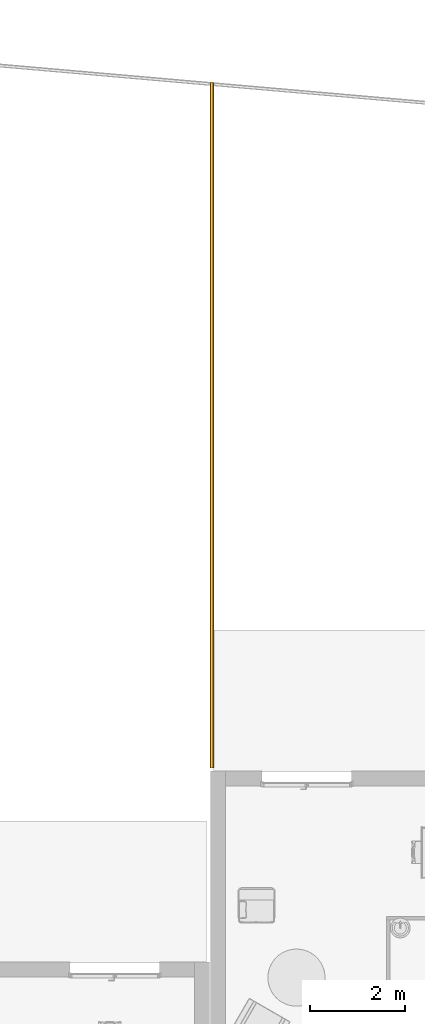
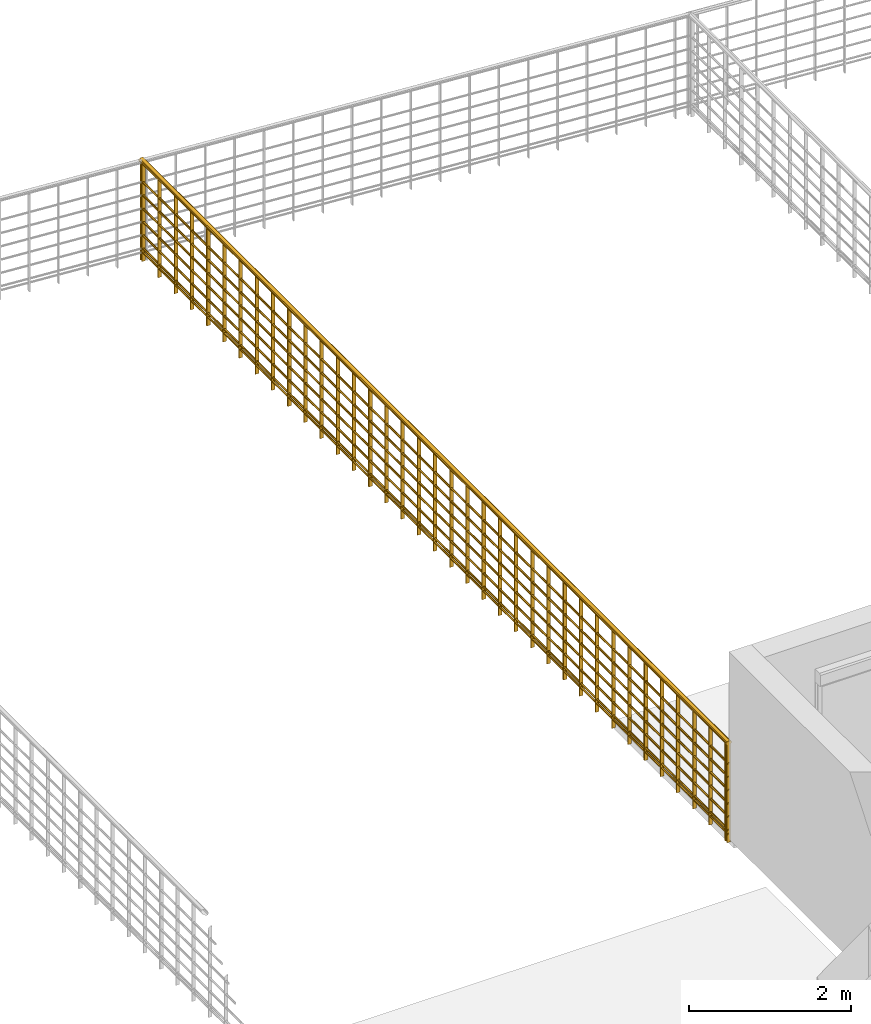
# One storey, part 27 of 30: 1 railing.
"""IFC2X3 building model written with IfcOpenShell, lengths in metres."""

from ifc_helpers import new_model, entity, si_unit, converted_unit, derived_unit, direction, frame, frame_2d, origin, origin_2d_with_axis, place, context, subcontext, project, spatial, polyline, rectangle, circle, outline, extrude, material, material_list, element, save


model = new_model("IFC2X3")

# Units and contexts
model_context = context("Model", 3, precision=1e-05, world=origin(), true_north=direction((6.12303176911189e-17, 1.0)))
body_context = subcontext(model_context, "Body", "Model", "MODEL_VIEW")
ifc_project = project(units=[si_unit("LENGTHUNIT", "METRE"), si_unit("AREAUNIT", "SQUARE_METRE"), si_unit("VOLUMEUNIT", "CUBIC_METRE"), converted_unit("PLANEANGLEUNIT", "DEGREE", entity("IfcRatioMeasure", 0.0174532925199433), si_unit("PLANEANGLEUNIT", "RADIAN"), dimensions=[0, 0, 0, 0, 0, 0, 0]), si_unit("MASSUNIT", "GRAM", prefix="KILO"), derived_unit("MASSDENSITYUNIT", [(si_unit("MASSUNIT", "GRAM", prefix="KILO"), 1), (si_unit("LENGTHUNIT", "METRE"), -3)]), si_unit("TIMEUNIT", "SECOND"), si_unit("FREQUENCYUNIT", "HERTZ"), si_unit("THERMODYNAMICTEMPERATUREUNIT", "DEGREE_CELSIUS"), derived_unit("THERMALTRANSMITTANCEUNIT", [(si_unit("MASSUNIT", "GRAM", prefix="KILO"), 1), (si_unit("THERMODYNAMICTEMPERATUREUNIT", "KELVIN"), -1), (si_unit("TIMEUNIT", "SECOND"), -3)]), derived_unit("VOLUMETRICFLOWRATEUNIT", [(si_unit("LENGTHUNIT", "METRE"), 3), (si_unit("TIMEUNIT", "SECOND"), -1)]), si_unit("ELECTRICCURRENTUNIT", "AMPERE"), si_unit("ELECTRICVOLTAGEUNIT", "VOLT"), si_unit("POWERUNIT", "WATT"), si_unit("FORCEUNIT", "NEWTON", prefix="KILO"), si_unit("ILLUMINANCEUNIT", "LUX"), si_unit("LUMINOUSFLUXUNIT", "LUMEN"), si_unit("LUMINOUSINTENSITYUNIT", "CANDELA"), derived_unit("USERDEFINED", [(si_unit("MASSUNIT", "GRAM", prefix="KILO"), -1), (si_unit("LENGTHUNIT", "METRE"), -2), (si_unit("TIMEUNIT", "SECOND"), 3), (si_unit("LUMINOUSFLUXUNIT", "LUMEN"), 1)]), derived_unit("LINEARVELOCITYUNIT", [(si_unit("LENGTHUNIT", "METRE"), 1), (si_unit("TIMEUNIT", "SECOND"), -1)]), si_unit("PRESSUREUNIT", "PASCAL"), derived_unit("USERDEFINED", [(si_unit("LENGTHUNIT", "METRE"), -2), (si_unit("MASSUNIT", "GRAM", prefix="KILO"), 1), (si_unit("TIMEUNIT", "SECOND"), -2)])], contexts=[model_context])

# Site, building, storey
site_placement = place(None, origin())
site = spatial("IfcSite", under=ifc_project, at=site_placement, Name="Surface", CompositionType="ELEMENT")
building_placement = place(site_placement, origin())
building = spatial("IfcBuilding", under=site, at=building_placement, CompositionType="ELEMENT")
storey_placement = place(building_placement, origin())
storey = spatial("IfcBuildingStorey", under=building, at=storey_placement, Name="Plan des fondations  Maisons 1 et 2", CompositionType="ELEMENT", Elevation=0.0)

# Railing
ifc_material_1 = material(Name="Bois")
ifc_material_2 = material(Name="Finition Peinture Grise")
ifc_material_list = material_list([ifc_material_1, ifc_material_2])
railing_placement = place(building_placement, origin())
element("IfcRailing", 1, at=railing_placement, inside=storey, material=ifc_material_list, Name="Garde-corps:Type Bateau 1,50 m", ObjectType="Garde-corps:Type Bateau 1,50 m", PredefinedType="NOTDEFINED", context=body_context, shape_type="SweptSolid", body=[
    extrude(rectangle(XDim=0.0499999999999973, YDim=0.0139999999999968, at=frame_2d((4.32986979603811e-15, 0.0), x_axis=(1.0, 0.0))), frame((76.3372847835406, 106.978195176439, -0.1), z_axis=(0.0, 0.0, 1.0), x_axis=(-1.0, 0.0, 0.0)), (0.0, 0.0, 1.0), 1.46984653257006),
    extrude(rectangle(XDim=0.0499999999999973, YDim=0.0139999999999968, at=frame_2d((4.32986979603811e-15, 0.0), x_axis=(1.0, 0.0))), frame((76.3372847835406, 106.578195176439, -0.1), z_axis=(0.0, 0.0, 1.0), x_axis=(-1.0, 0.0, 0.0)), (0.0, 0.0, 1.0), 1.46984653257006),
    extrude(rectangle(XDim=0.0499999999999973, YDim=0.0139999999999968, at=frame_2d((4.32986979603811e-15, 0.0), x_axis=(1.0, 0.0))), frame((76.3372847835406, 106.178195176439, -0.1), z_axis=(0.0, 0.0, 1.0), x_axis=(-1.0, 0.0, 0.0)), (0.0, 0.0, 1.0), 1.46984653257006),
    extrude(rectangle(XDim=0.0499999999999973, YDim=0.0139999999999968, at=frame_2d((4.32986979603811e-15, 0.0), x_axis=(1.0, 0.0))), frame((76.3372847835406, 105.778195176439, -0.1), z_axis=(0.0, 0.0, 1.0), x_axis=(-1.0, 0.0, 0.0)), (0.0, 0.0, 1.0), 1.46984653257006),
    extrude(rectangle(XDim=0.0499999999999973, YDim=0.0139999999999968, at=frame_2d((4.32986979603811e-15, 0.0), x_axis=(1.0, 0.0))), frame((76.3372847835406, 105.378195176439, -0.1), z_axis=(0.0, 0.0, 1.0), x_axis=(-1.0, 0.0, 0.0)), (0.0, 0.0, 1.0), 1.46984653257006),
    extrude(rectangle(XDim=0.0499999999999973, YDim=0.0139999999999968, at=frame_2d((4.32986979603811e-15, 0.0), x_axis=(1.0, 0.0))), frame((76.3372847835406, 104.978195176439, -0.1), z_axis=(0.0, 0.0, 1.0), x_axis=(-1.0, 0.0, 0.0)), (0.0, 0.0, 1.0), 1.46984653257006),
    extrude(rectangle(XDim=0.0499999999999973, YDim=0.0139999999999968, at=frame_2d((-4.32986979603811e-15, 1.73259843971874e-14), x_axis=(1.0, 0.0))), frame((76.3372847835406, 104.578195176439, -0.1), z_axis=(0.0, 0.0, 1.0), x_axis=(-1.0, 0.0, 0.0)), (0.0, 0.0, 1.0), 1.46984653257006),
    extrude(rectangle(XDim=0.0499999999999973, YDim=0.0139999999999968, at=frame_2d((-4.32986979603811e-15, 0.0), x_axis=(1.0, 0.0))), frame((76.3372847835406, 104.178195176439, -0.1), z_axis=(0.0, 0.0, 1.0), x_axis=(-1.0, 0.0, 0.0)), (0.0, 0.0, 1.0), 1.46984653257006),
    extrude(rectangle(XDim=0.0499999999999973, YDim=0.0139999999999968, at=frame_2d((-4.32986979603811e-15, 0.0), x_axis=(1.0, 0.0))), frame((76.3372847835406, 103.778195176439, -0.1), z_axis=(0.0, 0.0, 1.0), x_axis=(-1.0, 0.0, 0.0)), (0.0, 0.0, 1.0), 1.46984653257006),
    extrude(rectangle(XDim=0.0499999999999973, YDim=0.0139999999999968, at=frame_2d((-4.32986979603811e-15, 0.0), x_axis=(1.0, 0.0))), frame((76.3372847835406, 103.378195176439, -0.1), z_axis=(0.0, 0.0, 1.0), x_axis=(-1.0, 0.0, 0.0)), (0.0, 0.0, 1.0), 1.46984653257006),
    extrude(rectangle(XDim=0.0499999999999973, YDim=0.0139999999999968, at=frame_2d((-4.32986979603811e-15, 0.0), x_axis=(1.0, 0.0))), frame((76.3372847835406, 102.978195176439, -0.1), z_axis=(0.0, 0.0, 1.0), x_axis=(-1.0, 0.0, 0.0)), (0.0, 0.0, 1.0), 1.46984653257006),
    extrude(rectangle(XDim=0.0499999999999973, YDim=0.0139999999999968, at=frame_2d((-4.32986979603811e-15, 0.0), x_axis=(1.0, 0.0))), frame((76.3372847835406, 102.578195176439, -0.1), z_axis=(0.0, 0.0, 1.0), x_axis=(-1.0, 0.0, 0.0)), (0.0, 0.0, 1.0), 1.46984653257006),
    extrude(rectangle(XDim=0.0499999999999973, YDim=0.0139999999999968, at=frame_2d((-4.32986979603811e-15, 0.0), x_axis=(1.0, 0.0))), frame((76.3372847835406, 102.178195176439, -0.1), z_axis=(0.0, 0.0, 1.0), x_axis=(-1.0, 0.0, 0.0)), (0.0, 0.0, 1.0), 1.46984653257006),
    extrude(rectangle(XDim=0.0499999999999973, YDim=0.0139999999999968, at=frame_2d((-4.32986979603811e-15, 0.0), x_axis=(1.0, 0.0))), frame((76.3372847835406, 101.778195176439, -0.1), z_axis=(0.0, 0.0, 1.0), x_axis=(-1.0, 0.0, 0.0)), (0.0, 0.0, 1.0), 1.46984653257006),
    extrude(rectangle(XDim=0.0499999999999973, YDim=0.0139999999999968, at=frame_2d((-4.32986979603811e-15, 0.0), x_axis=(1.0, 0.0))), frame((76.3372847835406, 101.378195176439, -0.1), z_axis=(0.0, 0.0, 1.0), x_axis=(-1.0, 0.0, 0.0)), (0.0, 0.0, 1.0), 1.46984653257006),
    extrude(rectangle(XDim=0.0499999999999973, YDim=0.0139999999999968, at=frame_2d((-4.32986979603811e-15, 0.0), x_axis=(1.0, 0.0))), frame((76.3372847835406, 100.978195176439, -0.1), z_axis=(0.0, 0.0, 1.0), x_axis=(-1.0, 0.0, 0.0)), (0.0, 0.0, 1.0), 1.46984653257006),
    extrude(rectangle(XDim=0.0499999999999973, YDim=0.0139999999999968, at=frame_2d((-4.32986979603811e-15, 0.0), x_axis=(1.0, 0.0))), frame((76.3372847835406, 100.578195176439, -0.1), z_axis=(0.0, 0.0, 1.0), x_axis=(-1.0, 0.0, 0.0)), (0.0, 0.0, 1.0), 1.46984653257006),
    extrude(rectangle(XDim=0.0499999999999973, YDim=0.0139999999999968, at=frame_2d((-4.32986979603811e-15, 0.0), x_axis=(1.0, 0.0))), frame((76.3372847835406, 100.178195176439, -0.1), z_axis=(0.0, 0.0, 1.0), x_axis=(-1.0, 0.0, 0.0)), (0.0, 0.0, 1.0), 1.46984653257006),
    extrude(rectangle(XDim=0.0499999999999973, YDim=0.0139999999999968, at=frame_2d((4.32986979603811e-15, 0.0), x_axis=(1.0, 0.0))), frame((76.3372847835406, 99.7781951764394, -0.1), z_axis=(0.0, 0.0, 1.0), x_axis=(-1.0, 0.0, 0.0)), (0.0, 0.0, 1.0), 1.46984653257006),
    extrude(rectangle(XDim=0.0499999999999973, YDim=0.0139999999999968, at=frame_2d((4.32986979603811e-15, 0.0), x_axis=(1.0, 0.0))), frame((76.3372847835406, 99.3781951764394, -0.1), z_axis=(0.0, 0.0, 1.0), x_axis=(-1.0, 0.0, 0.0)), (0.0, 0.0, 1.0), 1.46984653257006),
    extrude(rectangle(XDim=0.0499999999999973, YDim=0.0139999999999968, at=frame_2d((4.32986979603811e-15, 0.0), x_axis=(1.0, 0.0))), frame((76.3372847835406, 98.9781951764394, -0.1), z_axis=(0.0, 0.0, 1.0), x_axis=(-1.0, 0.0, 0.0)), (0.0, 0.0, 1.0), 1.46984653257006),
    extrude(rectangle(XDim=0.0499999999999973, YDim=0.0139999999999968, at=frame_2d((4.32986979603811e-15, 0.0), x_axis=(1.0, 0.0))), frame((76.3372847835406, 98.5781951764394, -0.1), z_axis=(0.0, 0.0, 1.0), x_axis=(-1.0, 0.0, 0.0)), (0.0, 0.0, 1.0), 1.46984653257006),
    extrude(rectangle(XDim=0.0499999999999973, YDim=0.0139999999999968, at=frame_2d((4.32986979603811e-15, 0.0), x_axis=(1.0, 0.0))), frame((76.3372847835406, 98.1781951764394, -0.1), z_axis=(0.0, 0.0, 1.0), x_axis=(-1.0, 0.0, 0.0)), (0.0, 0.0, 1.0), 1.46984653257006),
    extrude(rectangle(XDim=0.0499999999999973, YDim=0.0139999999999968, at=frame_2d((4.32986979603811e-15, 0.0), x_axis=(1.0, 0.0))), frame((76.3372847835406, 97.7781951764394, -0.1), z_axis=(0.0, 0.0, 1.0), x_axis=(-1.0, 0.0, 0.0)), (0.0, 0.0, 1.0), 1.46984653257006),
    extrude(rectangle(XDim=0.0499999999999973, YDim=0.0139999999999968, at=frame_2d((4.32986979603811e-15, 0.0), x_axis=(1.0, 0.0))), frame((76.3372847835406, 97.3781951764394, -0.1), z_axis=(0.0, 0.0, 1.0), x_axis=(-1.0, 0.0, 0.0)), (0.0, 0.0, 1.0), 1.46984653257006),
    extrude(rectangle(XDim=0.0499999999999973, YDim=0.0139999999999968, at=frame_2d((4.32986979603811e-15, 0.0), x_axis=(1.0, 0.0))), frame((76.3372847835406, 96.9781951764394, -0.1), z_axis=(0.0, 0.0, 1.0), x_axis=(-1.0, 0.0, 0.0)), (0.0, 0.0, 1.0), 1.46984653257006),
    extrude(rectangle(XDim=0.0499999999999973, YDim=0.0139999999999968, at=frame_2d((4.32986979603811e-15, 0.0), x_axis=(1.0, 0.0))), frame((76.3372847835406, 96.5781951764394, -0.1), z_axis=(0.0, 0.0, 1.0), x_axis=(-1.0, 0.0, 0.0)), (0.0, 0.0, 1.0), 1.46984653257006),
    extrude(rectangle(XDim=0.0499999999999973, YDim=0.0139999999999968, at=frame_2d((4.32986979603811e-15, 0.0), x_axis=(1.0, 0.0))), frame((76.3372847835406, 96.1781951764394, -0.1), z_axis=(0.0, 0.0, 1.0), x_axis=(-1.0, 0.0, 0.0)), (0.0, 0.0, 1.0), 1.46984653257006),
    extrude(rectangle(XDim=0.0499999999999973, YDim=0.0139999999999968, at=frame_2d((4.32986979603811e-15, 0.0), x_axis=(1.0, 0.0))), frame((76.3372847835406, 95.7781951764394, -0.1), z_axis=(0.0, 0.0, 1.0), x_axis=(-1.0, 0.0, 0.0)), (0.0, 0.0, 1.0), 1.46984653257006),
    extrude(rectangle(XDim=0.0499999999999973, YDim=0.0139999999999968, at=frame_2d((4.32986979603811e-15, 0.0), x_axis=(1.0, 0.0))), frame((76.3372847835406, 95.3781951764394, -0.1), z_axis=(0.0, 0.0, 1.0), x_axis=(-1.0, 0.0, 0.0)), (0.0, 0.0, 1.0), 1.46984653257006),
    extrude(rectangle(XDim=0.0499999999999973, YDim=0.0139999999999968, at=frame_2d((-4.32986979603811e-15, 0.0), x_axis=(1.0, 0.0))), frame((76.3372847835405, 94.9781951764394, -0.1), z_axis=(0.0, 0.0, 1.0), x_axis=(-1.0, 0.0, 0.0)), (0.0, 0.0, 1.0), 1.46984653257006),
    extrude(rectangle(XDim=0.0499999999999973, YDim=0.0139999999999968, at=frame_2d((-4.32986979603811e-15, 0.0), x_axis=(1.0, 0.0))), frame((76.3372847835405, 94.5781951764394, -0.1), z_axis=(0.0, 0.0, 1.0), x_axis=(-1.0, 0.0, 0.0)), (0.0, 0.0, 1.0), 1.46984653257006),
    extrude(rectangle(XDim=0.0499999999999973, YDim=0.0139999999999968, at=frame_2d((-4.32986979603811e-15, 0.0), x_axis=(1.0, 0.0))), frame((76.3372847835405, 94.1781951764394, -0.1), z_axis=(0.0, 0.0, 1.0), x_axis=(-1.0, 0.0, 0.0)), (0.0, 0.0, 1.0), 1.46984653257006),
    extrude(rectangle(XDim=0.0499999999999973, YDim=0.0139999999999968, at=frame_2d((-4.32986979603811e-15, 0.0), x_axis=(1.0, 0.0))), frame((76.3372847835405, 93.7781951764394, -0.1), z_axis=(0.0, 0.0, 1.0), x_axis=(-1.0, 0.0, 0.0)), (0.0, 0.0, 1.0), 1.46984653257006),
    extrude(rectangle(XDim=0.0499999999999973, YDim=0.0139999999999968, at=frame_2d((-4.32986979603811e-15, 0.0), x_axis=(1.0, 0.0))), frame((76.3372847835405, 93.3781951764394, -0.1), z_axis=(0.0, 0.0, 1.0), x_axis=(-1.0, 0.0, 0.0)), (0.0, 0.0, 1.0), 1.46984653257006),
    extrude(rectangle(XDim=0.0499999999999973, YDim=0.0139999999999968, at=frame_2d((-4.32986979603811e-15, 0.0), x_axis=(1.0, 0.0))), frame((76.3372847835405, 92.9781951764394, -0.1), z_axis=(0.0, 0.0, 1.0), x_axis=(-1.0, 0.0, 0.0)), (0.0, 0.0, 1.0), 1.46984653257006),
    extrude(rectangle(XDim=0.0499999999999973, YDim=0.0139999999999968, at=frame_2d((-4.32986979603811e-15, 0.0), x_axis=(1.0, 0.0))), frame((76.3372847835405, 92.5781951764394, -0.1), z_axis=(0.0, 0.0, 1.0), x_axis=(-1.0, 0.0, 0.0)), (0.0, 0.0, 1.0), 1.46984653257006),
    extrude(rectangle(XDim=0.0499999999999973, YDim=0.0139999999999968, at=frame_2d((4.32986979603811e-15, 1.73259843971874e-14), x_axis=(1.0, 0.0))), frame((76.3372847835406, 107.018195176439, -0.1), z_axis=(0.0, 0.0, 1.0), x_axis=(-1.0, 0.0, 0.0)), (0.0, 0.0, 1.0), 1.46984653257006),
    extrude(rectangle(XDim=0.0499999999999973, YDim=0.0139999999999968, at=frame_2d((-4.32986979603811e-15, 0.0), x_axis=(1.0, 0.0))), frame((76.3372847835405, 92.5381951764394, -0.1), z_axis=(0.0, 0.0, 1.0), x_axis=(-1.0, 0.0, 0.0)), (0.0, 0.0, 1.0), 1.46984653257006),
    extrude(outline(polyline([(-0.0109067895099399, -0.0384843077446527), (0.00177588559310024, -0.0384843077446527), (0.0141514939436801, -0.0318300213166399), (0.024080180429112, -0.0196720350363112), (0.0298451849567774, -0.0041125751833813), (0.0304496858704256, 0.0121579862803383), (0.0257891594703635, 0.0263263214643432), (0.0166694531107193, 0.0359425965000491), (0.0109067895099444, 0.0384843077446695), (-0.00177588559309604, 0.0384843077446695), (-0.0141514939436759, 0.0318300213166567), (-0.0240801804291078, 0.0196720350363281), (-0.0298451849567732, 0.00411257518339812), (-0.0304496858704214, -0.0121579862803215), (-0.0257891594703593, -0.0263263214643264), (-0.0166694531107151, -0.0359425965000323), (-0.0109067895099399, -0.0384843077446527)])), frame((76.3367857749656, 92.5270160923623, 1.4), z_axis=(0.0, 1.0, 0.0), x_axis=(0.27266973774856, 0.0, 0.962107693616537)), (0.0, 0.0, 1.0), 14.5),
    extrude(circle(Radius=0.015, at=origin_2d_with_axis()), frame((76.3367857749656, 92.5270160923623, 0.025), z_axis=(0.0, 1.0, 0.0), x_axis=(1.0, 0.0, 0.0)), (0.0, 0.0, 1.0), 14.5),
    extrude(circle(Radius=0.015, at=origin_2d_with_axis()), frame((76.3367857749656, 92.5270160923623, 1.085), z_axis=(0.0, 1.0, 0.0), x_axis=(1.0, 0.0, 0.0)), (0.0, 0.0, 1.0), 14.5),
    extrude(circle(Radius=0.015, at=origin_2d_with_axis()), frame((76.3367857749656, 92.5270160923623, 0.885), z_axis=(0.0, 1.0, 0.0), x_axis=(1.0, 0.0, 0.0)), (0.0, 0.0, 1.0), 14.5),
    extrude(circle(Radius=0.015, at=origin_2d_with_axis()), frame((76.3367857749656, 92.5270160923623, 0.685), z_axis=(0.0, 1.0, 0.0), x_axis=(1.0, 0.0, 0.0)), (0.0, 0.0, 1.0), 14.5),
    extrude(circle(Radius=0.015, at=origin_2d_with_axis()), frame((76.3367857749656, 92.5270160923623, 0.485), z_axis=(0.0, 1.0, 0.0), x_axis=(1.0, 0.0, 0.0)), (0.0, 0.0, 1.0), 14.5),
    extrude(circle(Radius=0.015, at=origin_2d_with_axis()), frame((76.3367857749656, 92.5270160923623, 0.285), z_axis=(0.0, 1.0, 0.0), x_axis=(1.0, 0.0, 0.0)), (0.0, 0.0, 1.0), 14.5),
    extrude(circle(Radius=0.015, at=origin_2d_with_axis()), frame((76.3367857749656, 92.5270160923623, 0.085), z_axis=(0.0, 1.0, 0.0), x_axis=(1.0, 0.0, 0.0)), (0.0, 0.0, 1.0), 14.5),
])

save(model, "model.ifc")
